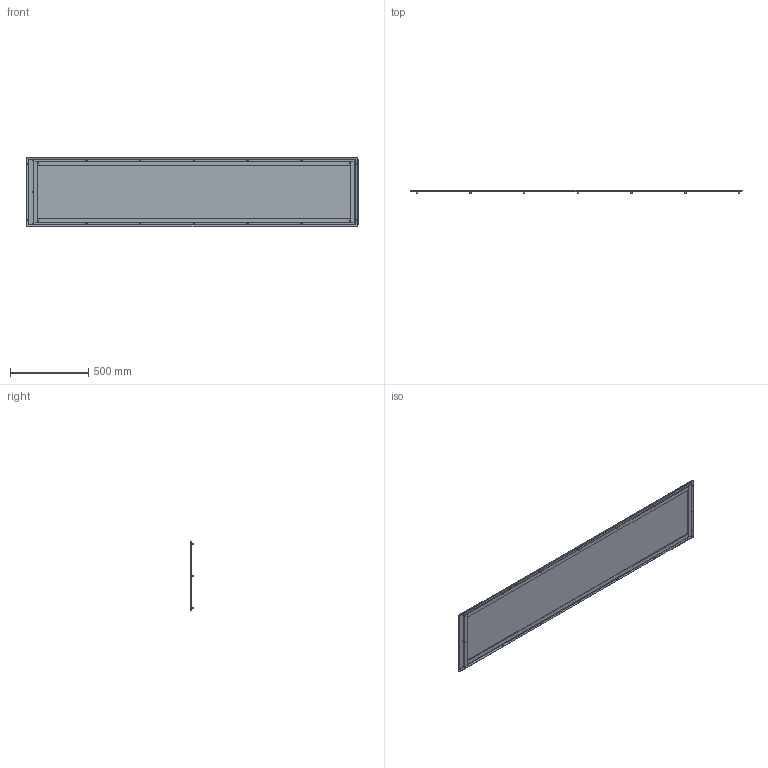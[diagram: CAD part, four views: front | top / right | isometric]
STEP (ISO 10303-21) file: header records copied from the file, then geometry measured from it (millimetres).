
FILE_DESCRIPTION((''),'2;1');
FILE_NAME('MODEL-263_ASM','2017-07-25T',('JoelB'),('SAGINAW CONTROL & ENGINEERING'),'PRO/ENGINEER BY PARAMETRIC TECHNOLOGY CORPORATION, 2012070','PRO/ENGINEER BY PARAMETRIC TECHNOLOGY CORPORATION, 2012070','');
FILE_SCHEMA(('AUTOMOTIVE_DESIGN { 1 0 10303 214 1 1 1 1 }'));
Length unit declared in the file: inch
Products named in the file (4): MODEL-263-END-PLATE; 101647; 102233; MODEL-263_ASM
Assembly tree (18 placements, depth 2):
  MODEL-263_ASM
    MODEL-263-END-PLATE
    101647  x16
    102233
Bounding box: 2120.9 x 21.08 x 444.5 mm (x, y, z)
Volume: 2655686 mm3; surface area: 2211526.5 mm2
Topology: 21 solids, 21 shells, 518 faces, 1028 edges, 600 vertices
Faces by surface type: cylinder 152, plane 134, torus 96, bspline 72, cone 64
Entity records: 4625 total; most frequent: CARTESIAN_POINT 990, DIRECTION 550, ORIENTED_EDGE 496, PRESENTATION_STYLE_ASSIGNMENT 254, STYLED_ITEM 254, CURVE_STYLE 248, EDGE_CURVE 248, AXIS2_PLACEMENT_3D 195
